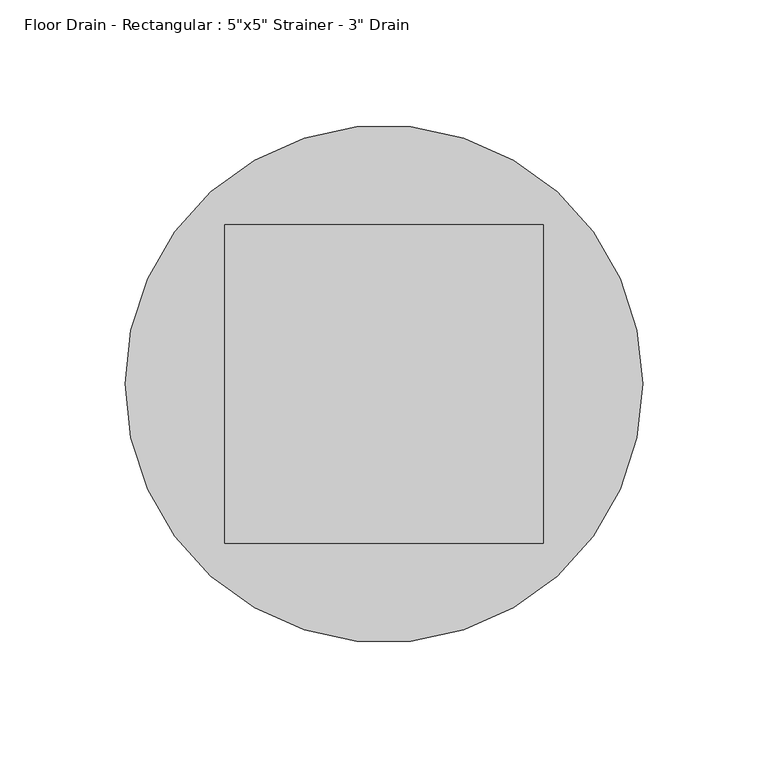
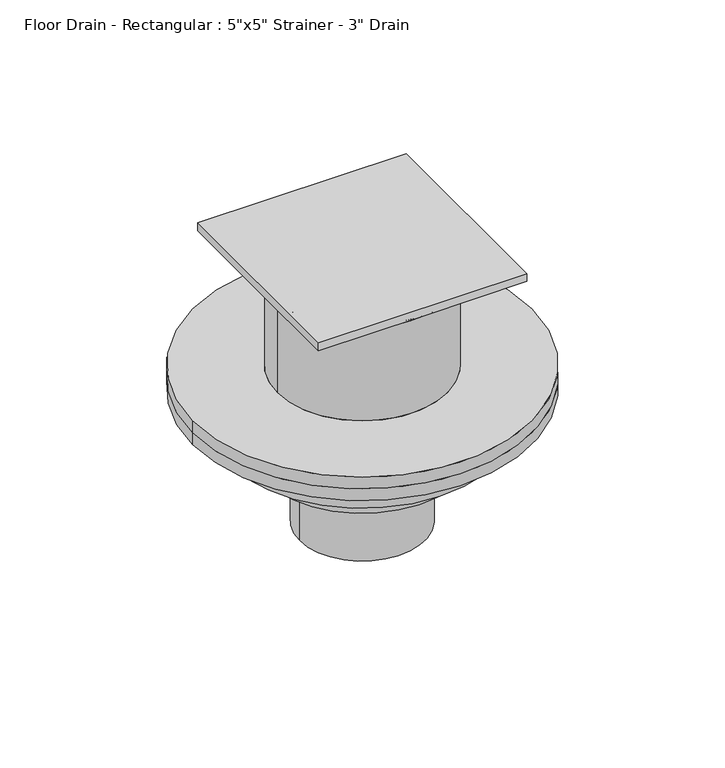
"""IFC4 building model written with IfcOpenShell, lengths in millimetres: flow terminal geometry."""

from ifc_helpers import new_model, si_unit, frame, origin, place, context, project, spatial, polyline, circle_curve, source, transform, mapped, element, save
from ifc_brep_helpers import plane_surface, cylinder_surface, revolved_surface, advanced_brep


def flow_terminal_13f0a478(model_context):
    return source(origin(), model_context, "Body", "AdvancedBrep", [
        advanced_brep(
        [(103.1875, 0.0, -74.93), (-103.1875, 0.0, -74.93), (-51.59375, 0.0, -74.93), (51.59375, 0.0, -74.93), (103.1875, 0.0, -82.55), (-103.1875, 0.0, -82.55), (51.59375, 0.0, -15.24), (-51.59375, 0.0, -15.24), (63.5, 0.0, -5.08), (0.0, -63.5, -5.08), (-63.5, 0.0, -5.08), (0.0, 63.5, -5.08), (63.5, -63.5, 0.0), (63.5, 63.5, 0.0), (-63.5, 63.5, 0.0), (-63.5, -63.5, 0.0), (-63.5, -63.5, -5.08), (63.5, 63.5, -5.08), (-63.5, 63.5, -5.08), (63.5, -63.5, -5.08)],
        [
            (0, 1, circle_curve(frame((0.0, 0.0, -74.93), z_axis=(0.0, 0.0, 1.0), x_axis=(-1.0, 0.0, 0.0)), 103.1875)),
            (1, 0, circle_curve(frame((0.0, 0.0, -74.93), z_axis=(0.0, 0.0, 1.0), x_axis=(-1.0, 0.0, 0.0)), 103.1875)),
            (2, 3, circle_curve(frame((0.0, 0.0, -74.93), z_axis=(0.0, 0.0, -1.0), x_axis=(-1.0, 0.0, 0.0)), 51.59375)),
            (3, 2, circle_curve(frame((0.0, 0.0, -74.93), z_axis=(0.0, 0.0, -1.0), x_axis=(-1.0, 0.0, 0.0)), 51.59375)),
            (4, 5, circle_curve(frame((0.0, 0.0, -82.55), z_axis=(0.0, 0.0, -1.0), x_axis=(-1.0, 0.0, 0.0)), 103.1875)),
            (5, 4, circle_curve(frame((0.0, 0.0, -82.55), z_axis=(0.0, 0.0, -1.0), x_axis=(-1.0, 0.0, 0.0)), 103.1875)),
            (1, 5),
            (4, 0),
            (6, 7, circle_curve(frame((0.0, 0.0, -15.24), z_axis=(0.0, 0.0, -1.0), x_axis=(-1.0, 0.0, 0.0)), 51.59375)),
            (7, 2),
            (3, 6),
            (7, 6, circle_curve(frame((0.0, 0.0, -15.24), z_axis=(0.0, 0.0, -1.0), x_axis=(-1.0, 0.0, 0.0)), 51.59375)),
            (6, 8),
            (8, 9, circle_curve(frame((0.0, 0.0, -5.08), z_axis=(0.0, 0.0, -1.0), x_axis=(-1.0, 0.0, 0.0)), 63.5)),
            (9, 10, circle_curve(frame((0.0, 0.0, -5.08), z_axis=(0.0, 0.0, -1.0), x_axis=(-1.0, 0.0, 0.0)), 63.5)),
            (10, 7),
            (10, 11, circle_curve(frame((0.0, 0.0, -5.08), z_axis=(0.0, 0.0, -1.0), x_axis=(-1.0, 0.0, 0.0)), 63.5)),
            (11, 8, circle_curve(frame((0.0, 0.0, -5.08), z_axis=(0.0, 0.0, -1.0), x_axis=(-1.0, 0.0, 0.0)), 63.5)),
            (12, 13),
            (13, 14),
            (14, 15),
            (15, 12),
            (9, 16),
            (16, 10),
            (11, 17),
            (17, 8),
            (18, 11),
            (10, 18),
            (19, 9),
            (8, 19),
            (15, 16),
            (19, 12),
            (14, 18),
            (13, 17),
        ],
        [
            plane_surface(frame((-103.1875, 0.0, -74.93), z_axis=(0.0, 0.0, 1.0), x_axis=(0.0, 1.0, 0.0))),
            plane_surface(frame((-103.1875, 0.0, -82.55), z_axis=(0.0, 0.0, -1.0), x_axis=(0.0, -1.0, 0.0))),
            cylinder_surface(frame((0.0, 0.0, -82.55), z_axis=(0.0, 0.0, 1.0), x_axis=(-1.0, 0.0, 0.0)), 103.1875),
            cylinder_surface(frame((0.0, 0.0, -74.93), z_axis=(0.0, 0.0, 1.0), x_axis=(-1.0, 0.0, 0.0)), 51.59375),
            revolved_surface(polyline([(-63.5, 0.0, -5.08), (-51.59375, 0.0, -15.24)]), (0.0, 0.0, -5.08), (0.0, 0.0, -1.0)),
            plane_surface(frame((-63.5, -63.5, 0.0), z_axis=(0.0, 0.0, 1.0), x_axis=(-1.0, 0.0, 0.0))),
            plane_surface(frame((-63.5, -63.5, -5.08), z_axis=(0.0, 0.0, -1.0), x_axis=(1.0, 0.0, 0.0))),
            plane_surface(frame((63.5, -63.5, 0.0), z_axis=(0.0, -1.0, 0.0), x_axis=(0.0, 0.0, -1.0))),
            plane_surface(frame((-63.5, -63.5, 0.0), z_axis=(-1.0, 0.0, 0.0), x_axis=(0.0, 0.0, -1.0))),
            plane_surface(frame((-63.5, 63.5, 0.0), z_axis=(0.0, 1.0, 0.0), x_axis=(0.0, 0.0, -1.0))),
            plane_surface(frame((63.5, 63.5, 0.0), z_axis=(1.0, 0.0, 0.0), x_axis=(0.0, 0.0, -1.0))),
        ],
        [
            (0, [[1, 2], [3, 4]]),
            (1, [[5, 6]]),
            (2, [[7, -5, 8, -2]]),
            (2, [[-8, -6, -7, -1]]),
            (3, [[9, 10, -4, 11]]),
            (3, [[-3, -10, 12, -11]]),
            (4, [[-9, 13, 14, 15, 16]]),
            (4, [[17, 18, -13, -12, -16]]),
            (5, [[19, 20, 21, 22]]),
            (6, [[-15, 23, 24]]),
            (6, [[-18, 25, 26]]),
            (6, [[27, -17, 28]]),
            (6, [[29, -14, 30]]),
            (7, [[31, -23, -29, 32, -22]]),
            (8, [[33, -28, -24, -31, -21]]),
            (9, [[34, -25, -27, -33, -20]]),
            (10, [[-32, -30, -26, -34, -19]]),
        ],
    ),
        advanced_brep(
        [(103.1875, 0.0, -82.55), (-103.1875, 0.0, -82.55), (103.1875, 0.0, -90.17), (-103.1875, 0.0, -90.17), (81.4916667, 0.0, -90.17), (-81.4916667, 0.0, -90.17), (81.4916667, 0.0, -110.1725), (-81.4916667, 0.0, -110.1725), (59.7958333, 0.0, -110.1725), (-59.7958333, 0.0, -110.1725), (38.1, 0.0, -174.625), (-38.1, 0.0, -174.625), (38.1, 0.0, -128.5875), (-38.1, 0.0, -128.5875), (59.7958333, 0.0, -128.5875), (-59.7958333, 0.0, -128.5875)],
        [
            (0, 1, circle_curve(frame((0.0, 0.0, -82.55), z_axis=(0.0, 0.0, 1.0), x_axis=(-1.0, 0.0, 0.0)), 103.1875)),
            (1, 0, circle_curve(frame((0.0, 0.0, -82.55), z_axis=(0.0, 0.0, 1.0), x_axis=(-1.0, 0.0, 0.0)), 103.1875)),
            (2, 3, circle_curve(frame((0.0, 0.0, -90.17), z_axis=(0.0, 0.0, -1.0), x_axis=(-1.0, 0.0, 0.0)), 103.1875)),
            (3, 2, circle_curve(frame((0.0, 0.0, -90.17), z_axis=(0.0, 0.0, -1.0), x_axis=(-1.0, 0.0, 0.0)), 103.1875)),
            (4, 5, circle_curve(frame((0.0, 0.0, -90.17), z_axis=(0.0, 0.0, 1.0), x_axis=(-1.0, 0.0, 0.0)), 81.4916667)),
            (5, 4, circle_curve(frame((0.0, 0.0, -90.17), z_axis=(0.0, 0.0, 1.0), x_axis=(-1.0, 0.0, 0.0)), 81.4916667)),
            (1, 3),
            (2, 0),
            (6, 7, circle_curve(frame((0.0, 0.0, -110.1725), z_axis=(0.0, 0.0, -1.0), x_axis=(-1.0, 0.0, 0.0)), 81.4916667)),
            (7, 6, circle_curve(frame((0.0, 0.0, -110.1725), z_axis=(0.0, 0.0, -1.0), x_axis=(-1.0, 0.0, 0.0)), 81.4916667)),
            (8, 9, circle_curve(frame((0.0, 0.0, -110.1725), z_axis=(0.0, 0.0, 1.0), x_axis=(-1.0, 0.0, 0.0)), 59.7958333)),
            (9, 8, circle_curve(frame((0.0, 0.0, -110.1725), z_axis=(0.0, 0.0, 1.0), x_axis=(-1.0, 0.0, 0.0)), 59.7958333)),
            (6, 4),
            (5, 7),
            (10, 11, circle_curve(frame((0.0, 0.0, -174.625), z_axis=(0.0, 0.0, -1.0), x_axis=(-1.0, 0.0, 0.0)), 38.1)),
            (11, 10, circle_curve(frame((0.0, 0.0, -174.625), z_axis=(0.0, 0.0, -1.0), x_axis=(-1.0, 0.0, 0.0)), 38.1)),
            (10, 12),
            (12, 13, circle_curve(frame((0.0, 0.0, -128.5875), z_axis=(0.0, 0.0, -1.0), x_axis=(-1.0, 0.0, 0.0)), 38.1)),
            (13, 11),
            (13, 12, circle_curve(frame((0.0, 0.0, -128.5875), z_axis=(0.0, 0.0, -1.0), x_axis=(-1.0, 0.0, 0.0)), 38.1)),
            (14, 15, circle_curve(frame((0.0, 0.0, -128.5875), z_axis=(0.0, 0.0, -1.0), x_axis=(-1.0, 0.0, 0.0)), 59.7958333)),
            (15, 14, circle_curve(frame((0.0, 0.0, -128.5875), z_axis=(0.0, 0.0, -1.0), x_axis=(-1.0, 0.0, 0.0)), 59.7958333)),
            (14, 8),
            (9, 15),
        ],
        [
            plane_surface(frame((-103.1875, 0.0, -82.55), z_axis=(0.0, 0.0, 1.0), x_axis=(0.0, 1.0, 0.0))),
            plane_surface(frame((-103.1875, 0.0, -90.17), z_axis=(0.0, 0.0, -1.0), x_axis=(0.0, -1.0, 0.0))),
            cylinder_surface(frame((0.0, 0.0, -90.17), z_axis=(0.0, 0.0, 1.0), x_axis=(-1.0, 0.0, 0.0)), 103.1875),
            plane_surface(frame((-81.4916667, 0.0, -110.1725), z_axis=(0.0, 0.0, -1.0), x_axis=(0.0, -1.0, 0.0))),
            cylinder_surface(frame((0.0, 0.0, -110.1725), z_axis=(0.0, 0.0, 1.0), x_axis=(-1.0, 0.0, 0.0)), 81.4916667),
            plane_surface(frame((-38.1, 0.0, -174.625), z_axis=(0.0, 0.0, -1.0), x_axis=(0.0, -1.0, 0.0))),
            cylinder_surface(frame((0.0, 0.0, -174.625), z_axis=(0.0, 0.0, 1.0), x_axis=(-1.0, 0.0, 0.0)), 38.1),
            plane_surface(frame((-59.7958333, 0.0, -128.5875), z_axis=(0.0, 0.0, -1.0), x_axis=(0.0, -1.0, 0.0))),
            cylinder_surface(frame((0.0, 0.0, -128.5875), z_axis=(0.0, 0.0, 1.0), x_axis=(-1.0, 0.0, 0.0)), 59.7958333),
        ],
        [
            (0, [[1, 2]]),
            (1, [[3, 4], [5, 6]]),
            (2, [[7, -3, 8, -2]]),
            (2, [[-8, -4, -7, -1]]),
            (3, [[9, 10], [11, 12]]),
            (4, [[13, -6, 14, -9]]),
            (4, [[-14, -5, -13, -10]]),
            (5, [[15, 16]]),
            (6, [[17, 18, 19, -15]]),
            (6, [[-19, 20, -17, -16]]),
            (7, [[21, 22], [-20, -18]]),
            (8, [[23, -12, 24, -21]]),
            (8, [[-24, -11, -23, -22]]),
        ],
    ),
    ])


if __name__ == "__main__":
    model = new_model("IFC4")
    model_context = context("Model", 3, world=origin())
    ifc_project = project(units=[si_unit("LENGTHUNIT", "METRE", prefix="MILLI")], contexts=[model_context])
    site = spatial("IfcSite", under=ifc_project)
    building = spatial("IfcBuilding", under=site)
    placement = place(None, origin())
    flow_terminal_shape = flow_terminal_13f0a478(model_context)
    element("IfcFlowTerminal", 1, ObjectType="Floor Drain - Rectangular : 5\"x5\" Strainer - 3\" Drain", at=placement, inside=building, context=model_context, shape_type="MappedRepresentation", body=[
        mapped(flow_terminal_shape, transform((0.0, 0.0, 0.0), x_axis=(1.0, 0.0, 0.0), y_axis=(0.0, 1.0, 0.0), z_axis=(0.0, 0.0, 1.0))),
    ])
    save(model, "model.ifc")
